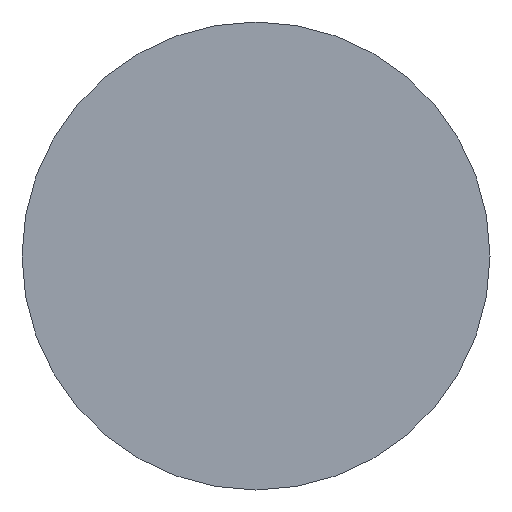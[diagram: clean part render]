
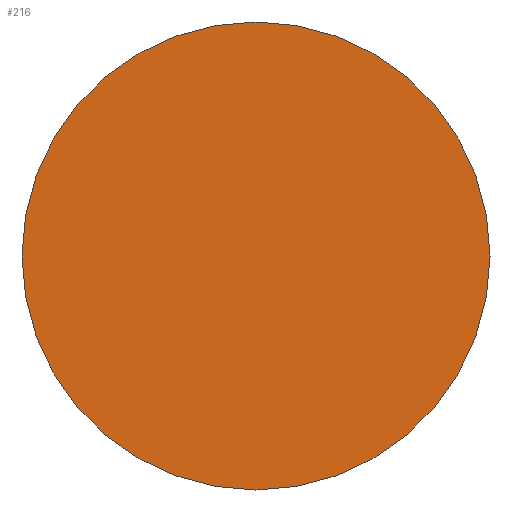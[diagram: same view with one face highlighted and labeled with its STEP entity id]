
A CAD part, left-side view. The second image highlights one B-rep face of the part: STEP entity #216.
In plain terms, the highlighted planar face has unit normal (-1, 0, 0).
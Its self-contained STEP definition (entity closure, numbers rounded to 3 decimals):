
#17 = CARTESIAN_POINT ( 'NONE',  ( 0., 0., 0. ) ) ;
#33 = AXIS2_PLACEMENT_3D ( 'NONE', #17, #93, #148 ) ;
#41 = DIRECTION ( 'NONE',  ( 1., 0., 0. ) ) ;
#47 = CARTESIAN_POINT ( 'NONE',  ( 0., 0., 0. ) ) ;
#78 = EDGE_CURVE ( 'NONE', #220, #135, #172, .T. ) ;
#83 = ORIENTED_EDGE ( 'NONE', *, *, #98, .T. ) ;
#86 = CARTESIAN_POINT ( 'NONE',  ( 0., 0., 1.75 ) ) ;
#93 = DIRECTION ( 'NONE',  ( -1., 0., 0. ) ) ;
#98 = EDGE_CURVE ( 'NONE', #135, #220, #269, .T. ) ;
#135 = VERTEX_POINT ( 'NONE', #147 ) ;
#142 = CARTESIAN_POINT ( 'NONE',  ( 0., 0., 0. ) ) ;
#147 = CARTESIAN_POINT ( 'NONE',  ( 0., 0., -1.75 ) ) ;
#148 = DIRECTION ( 'NONE',  ( 0., 0., 1. ) ) ;
#155 = AXIS2_PLACEMENT_3D ( 'NONE', #142, #244, #215 ) ;
#172 = CIRCLE ( 'NONE', #155, 1.75 ) ;
#203 = FACE_OUTER_BOUND ( 'NONE', #223, .T. ) ;
#208 = PLANE ( 'NONE',  #218 ) ;
#215 = DIRECTION ( 'NONE',  ( 0., 0., 1. ) ) ;
#216 = ADVANCED_FACE ( 'NONE', ( #203 ), #208, .F. ) ;
#218 = AXIS2_PLACEMENT_3D ( 'NONE', #47, #41, #243 ) ;
#220 = VERTEX_POINT ( 'NONE', #86 ) ;
#223 = EDGE_LOOP ( 'NONE', ( #264, #83 ) ) ;
#243 = DIRECTION ( 'NONE',  ( 0., 0., -1. ) ) ;
#244 = DIRECTION ( 'NONE',  ( -1., 0., 0. ) ) ;
#264 = ORIENTED_EDGE ( 'NONE', *, *, #78, .T. ) ;
#269 = CIRCLE ( 'NONE', #33, 1.75 ) ;
